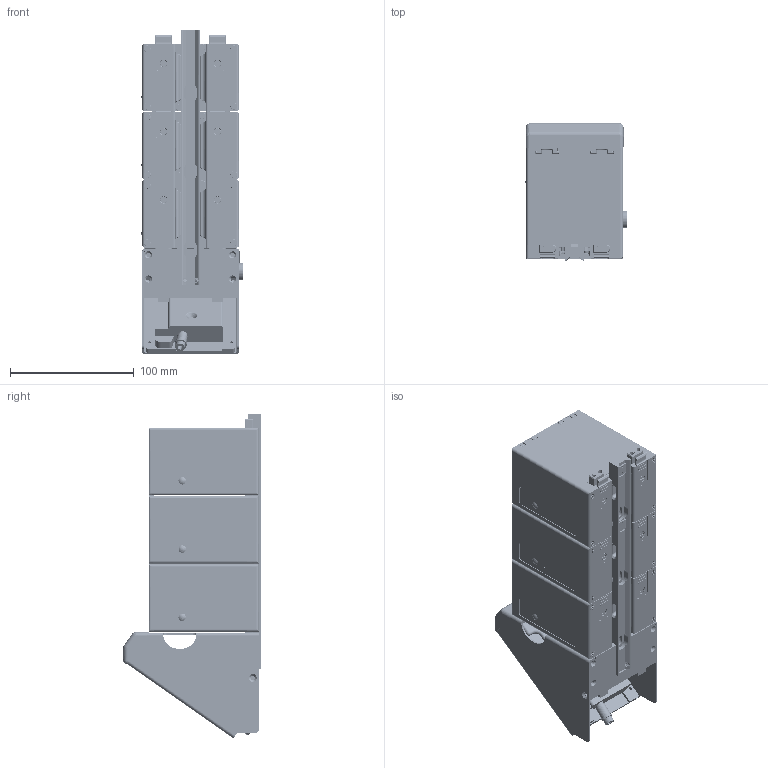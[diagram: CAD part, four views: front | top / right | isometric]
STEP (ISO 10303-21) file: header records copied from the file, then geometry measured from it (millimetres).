
FILE_DESCRIPTION (( 'STEP AP214' ), '1' );
FILE_NAME ('LGX 3X Baserunner Dock.STEP', '2025-11-04T01:05:32', ( '' ), ( '' ), 'SwSTEP 2.0', 'SolidWorks 2021', '' );
FILE_SCHEMA (( 'AUTOMOTIVE_DESIGN' ));
Length unit declared in the file: millimetre
Products named in the file (23): M3 Screw_M3x12; LGX-BRshell R1_R2; LGX 3X Baserunner Dock; LXG Single Module_B2 Front Locked; LGX-Ovl; LGX-Encl_Extrusion Profile; LGX-Dock R3_Dock Only; M3 Screw_M3x18; LG10X-Top_InjectionMolding; LGX-Rail_Rail x3; LGX-BRSink_Rev1; LGX-BRcap R0; ST3 Plug; XT60M; V5BRL10_Ref; LGX-Latch; LGX Cell Assembly; LXG Single Module_B2 Locked; LXG Single Module_B2 Rear Locked; LGX_TLock; XT60F; M3 Screw_M3x5; LGX-Base_InjectionMolded
Assembly tree (91 placements, depth 4):
  LGX 3X Baserunner Dock
    LGX-Rail_Rail x3
    LGX-Dock R3_Dock Only
    XT60F  x2
    LGX-BRshell R1_R2
    LGX-BRSink_Rev1
    V5BRL10_Ref
    LXG Single Module_B2 Front Locked
      LG10X-Top_InjectionMolding
      LGX-Encl_Extrusion Profile
      LGX-Base_InjectionMolded
      LGX Cell Assembly
        XT60F  x2
        XT60M  x2
      LGX-Latch  x2
      LGX-Ovl
      LGX_TLock  x4
      M3 Screw_M3x18  x4
      M3 Screw_M3x5  x2
      M3 Screw_M3x12  x8
    LXG Single Module_B2 Locked
      LG10X-Top_InjectionMolding
      LGX-Encl_Extrusion Profile
      LGX-Base_InjectionMolded
      LGX Cell Assembly
        XT60F  x2
        XT60M  x2
      LGX-Latch  x2
      LGX-Ovl
      LGX_TLock  x4
      M3 Screw_M3x18  x4
      M3 Screw_M3x5  x2
      M3 Screw_M3x12  x8
    LXG Single Module_B2 Rear Locked
      LG10X-Top_InjectionMolding
      LGX-Encl_Extrusion Profile
      LGX-Base_InjectionMolded
      LGX Cell Assembly
        XT60F  x2
        XT60M  x2
      LGX-Latch  x2
      LGX-Ovl
      LGX_TLock  x4
      M3 Screw_M3x18  x4
      M3 Screw_M3x5  x2
      M3 Screw_M3x12  x8
    ST3 Plug
    LGX-BRcap R0
Bounding box: 81.9 x 111.11 x 262.52 mm (x, y, z)
Volume: 441478.6 mm3; surface area: 388651.4 mm2
Topology: 140 solids, 141 shells, 13563 faces, 33472 edges, 19965 vertices
Faces by surface type: cylinder 4633, plane 3523, bspline 3148, torus 1465, cone 740, sphere 54
Entity records: 147839 total; most frequent: CARTESIAN_POINT 47188, ORIENTED_EDGE 21382, DIRECTION 19329, EDGE_CURVE 10691, AXIS2_PLACEMENT_3D 7407, VERTEX_POINT 6496, EDGE_LOOP 4555, LINE 4515
